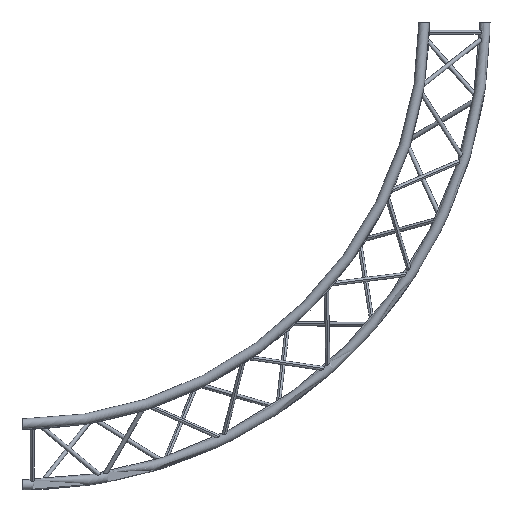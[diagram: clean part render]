
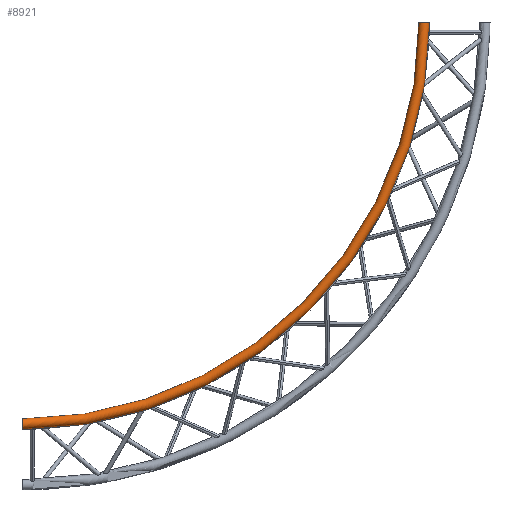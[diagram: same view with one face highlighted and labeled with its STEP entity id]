
A CAD part, front view. The second image highlights one B-rep face of the part: STEP entity #8921.
In plain terms, the highlighted toroidal (fillet/blend) face has major radius 1933.15 mm and minor radius 25 mm.
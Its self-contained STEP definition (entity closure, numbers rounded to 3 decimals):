
#3491 = CARTESIAN_POINT ( 'NONE',  ( 0., -168.5, 0. ) ) ;
#3492 = AXIS2_PLACEMENT_3D ( 'NONE', #3491, #3568, #3567 ) ;
#3493 = CIRCLE ( 'NONE', #3492, 1958.149 ) ;
#3553 = FACE_OUTER_BOUND ( 'NONE', #9160, .T. ) ;
#3554 = AXIS2_PLACEMENT_3D ( 'NONE', #3576, #3575, #3574 ) ;
#3555 = TOROIDAL_SURFACE ( 'NONE', #3554, 1933.149, 25. ) ;
#3567 = DIRECTION ( 'NONE',  ( 0., 0., -1. ) ) ;
#3568 = DIRECTION ( 'NONE',  ( 0., -1., 0. ) ) ;
#3569 = CARTESIAN_POINT ( 'NONE',  ( 1933.149, -168.5, 0. ) ) ;
#3574 = DIRECTION ( 'NONE',  ( 0., 0., -1. ) ) ;
#3575 = DIRECTION ( 'NONE',  ( 0., -1., 0. ) ) ;
#3576 = CARTESIAN_POINT ( 'NONE',  ( 0., -168.5, 0. ) ) ;
#3636 = CARTESIAN_POINT ( 'NONE',  ( 1958.149, -168.5, 0. ) ) ;
#3637 = CARTESIAN_POINT ( 'NONE',  ( 1908.149, -168.5, 0. ) ) ;
#3638 = DIRECTION ( 'NONE',  ( 1., 0., 0. ) ) ;
#3639 = DIRECTION ( 'NONE',  ( 0., 0., 1. ) ) ;
#3640 = AXIS2_PLACEMENT_3D ( 'NONE', #3569, #3639, #3638 ) ;
#3641 = CIRCLE ( 'NONE', #3640, 25. ) ;
#4114 = CIRCLE ( 'NONE', #4142, 25. ) ;
#4134 = CARTESIAN_POINT ( 'NONE',  ( 0., -168.5, -1908.149 ) ) ;
#4135 = DIRECTION ( 'NONE',  ( 0., 0., -1. ) ) ;
#4136 = DIRECTION ( 'NONE',  ( 0., -1., 0. ) ) ;
#4137 = AXIS2_PLACEMENT_3D ( 'NONE', #4143, #4136, #4135 ) ;
#4138 = CIRCLE ( 'NONE', #4137, 1908.149 ) ;
#4139 = DIRECTION ( 'NONE',  ( 0., 0., -1. ) ) ;
#4140 = DIRECTION ( 'NONE',  ( 1., 0., 0. ) ) ;
#4141 = CARTESIAN_POINT ( 'NONE',  ( 0., -168.5, -1933.149 ) ) ;
#4142 = AXIS2_PLACEMENT_3D ( 'NONE', #4141, #4140, #4139 ) ;
#4143 = CARTESIAN_POINT ( 'NONE',  ( 0., -168.5, 0. ) ) ;
#4360 = CARTESIAN_POINT ( 'NONE',  ( 0., -168.5, -1958.149 ) ) ;
#8851 = ORIENTED_EDGE ( 'NONE', *, *, #9027, .F. ) ;
#8914 = EDGE_CURVE ( 'NONE', #9055, #8928, #3493, .T. ) ;
#8921 = ADVANCED_FACE ( 'NONE', ( #3553 ), #3555, .T. ) ;
#8922 = ORIENTED_EDGE ( 'NONE', *, *, #8914, .T. ) ;
#8924 = EDGE_CURVE ( 'NONE', #8925, #8928, #3641, .T. ) ;
#8925 = VERTEX_POINT ( 'NONE', #3637 ) ;
#8928 = VERTEX_POINT ( 'NONE', #3636 ) ;
#8938 = ORIENTED_EDGE ( 'NONE', *, *, #8924, .F. ) ;
#9025 = ORIENTED_EDGE ( 'NONE', *, *, #9026, .T. ) ;
#9026 = EDGE_CURVE ( 'NONE', #9028, #9055, #4114, .T. ) ;
#9027 = EDGE_CURVE ( 'NONE', #9028, #8925, #4138, .T. ) ;
#9028 = VERTEX_POINT ( 'NONE', #4134 ) ;
#9055 = VERTEX_POINT ( 'NONE', #4360 ) ;
#9160 = EDGE_LOOP ( 'NONE', ( #9025, #8922, #8938, #8851 ) ) ;
